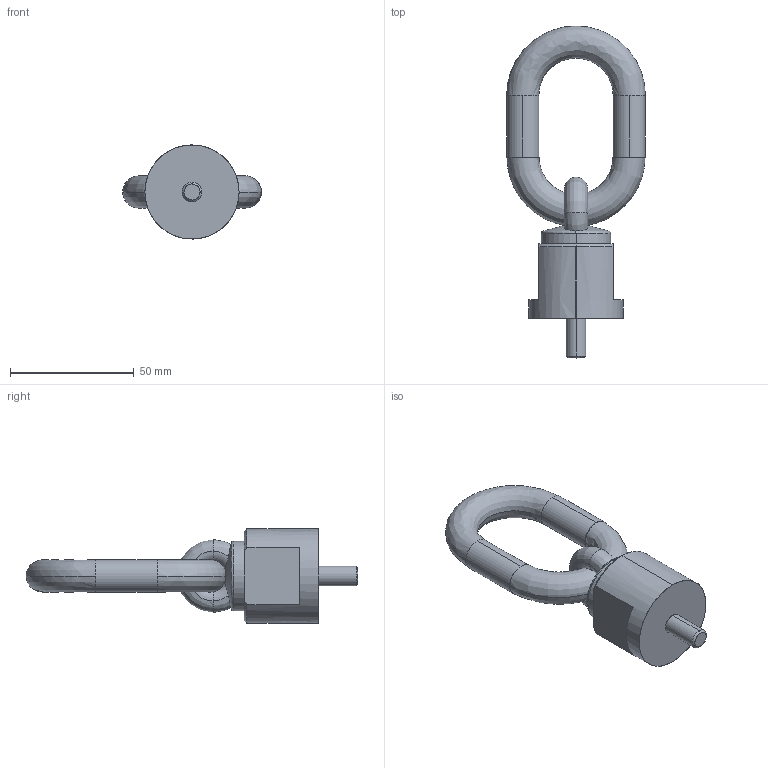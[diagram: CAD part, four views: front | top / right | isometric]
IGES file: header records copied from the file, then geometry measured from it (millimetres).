
Start section: START RECORD GO HERE.
Global section: file name: C800X0030816.igs; native system: DASSAULT SYSTEMES CATIA V5 R20 - www.3ds.com; preprocessor: CATIA Version 5 Release 20 ; author: Utente; organization: NB04-ASUS; date: 20200412.223643; units: millimetre
Bounding box: 56 x 134 x 38 mm (x, y, z)
Surface area: 14730.5 mm2 (no closed solid volume)
Topology: 0 solids, 0 shells, 48 faces, 246 edges, 246 vertices
Faces by surface type: revolution 35, extrusion 13
